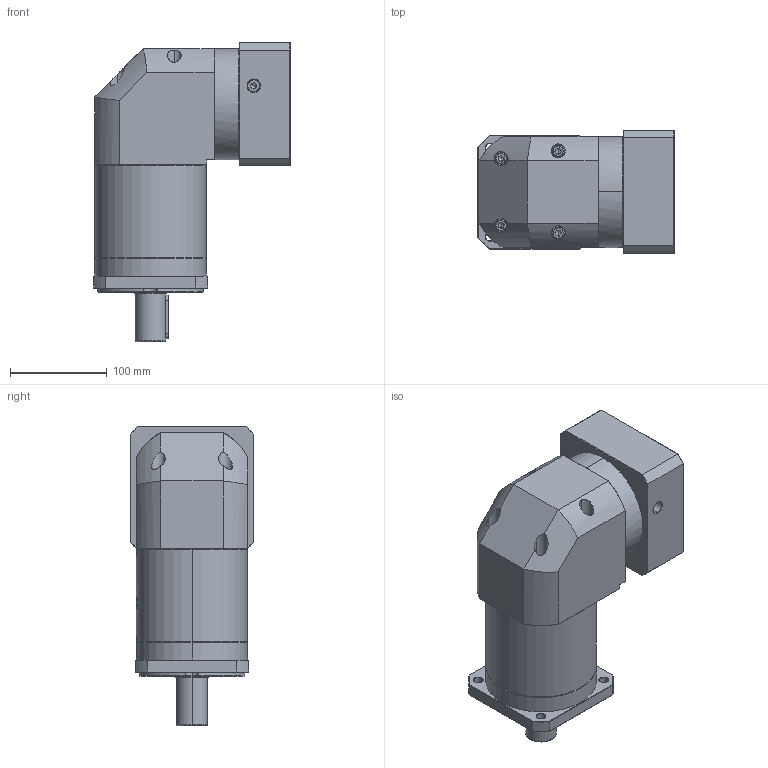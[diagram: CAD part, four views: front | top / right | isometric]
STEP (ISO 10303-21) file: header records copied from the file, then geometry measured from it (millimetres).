
FILE_DESCRIPTION (( 'STEP AP214' ), '1' );
FILE_NAME ('ZFR120A-D32-L3-P2-28-110-145-M8.step', '2023-08-27T08:12:24', ( '' ), ( '' ), 'SwSTEP 2.0', 'SolidWorks 2016', '' );
FILE_SCHEMA (( 'AUTOMOTIVE_DESIGN' ));
Length unit declared in the file: millimetre
Products named in the file (1): ZFR120A-D32-L3-P2-28-110-145-M8
Bounding box: 203.9 x 128 x 310 mm (x, y, z)
Volume: 3691583.4 mm3; surface area: 279986.3 mm2
Topology: 6 solids, 6 shells, 2267 faces, 5977 edges, 3812 vertices
Faces by surface type: plane 1062, cylinder 434, bspline 425, cone 338, torus 8
Entity records: 124449 total; most frequent: CARTESIAN_POINT 49043, ORIENTED_EDGE 11894, DIRECTION 8613, EDGE_CURVE 5947, VERTEX_POINT 3812, LINE 3163, VECTOR 3163, AXIS2_PLACEMENT_3D 2725
